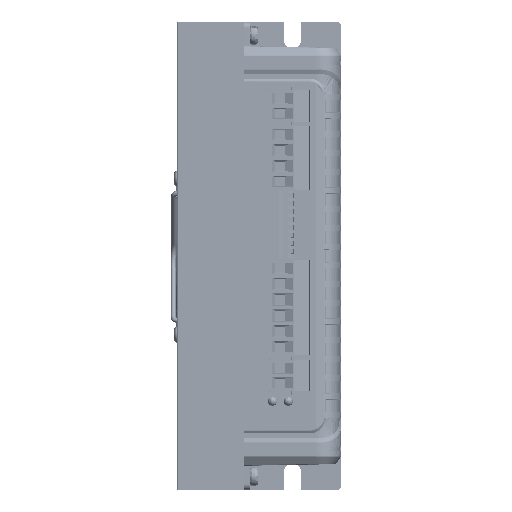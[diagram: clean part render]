
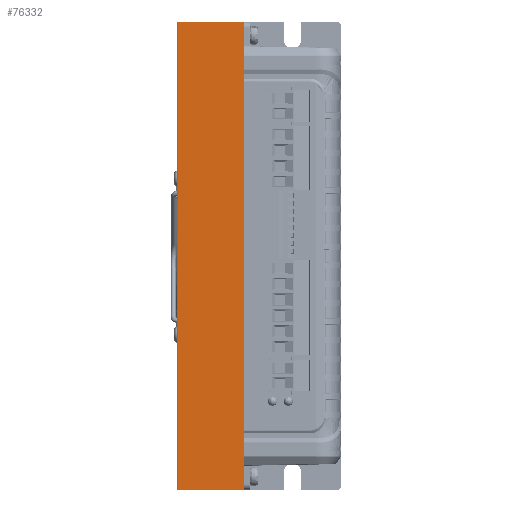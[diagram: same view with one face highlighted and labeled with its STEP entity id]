
A CAD part, front view. The second image highlights one B-rep face of the part: STEP entity #76332.
In plain terms, the highlighted planar face has unit normal (0, -1, 0).
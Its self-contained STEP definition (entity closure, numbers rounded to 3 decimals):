
#10241 = CARTESIAN_POINT ( 'NONE',  ( -4.7, -52.293, 150. ) ) ;
#20636 = CARTESIAN_POINT ( 'NONE',  ( -25.8, -52.293, 0. ) ) ;
#28886 = PLANE ( 'NONE',  #78495 ) ;
#48310 = CARTESIAN_POINT ( 'NONE',  ( -4.7, -52.293, 0. ) ) ;
#51841 = CARTESIAN_POINT ( 'NONE',  ( -25.8, -52.293, 0. ) ) ;
#64246 = VECTOR ( 'NONE', #119188, 1000. ) ;
#66654 = VECTOR ( 'NONE', #177272, 1000. ) ;
#76332 = ADVANCED_FACE ( 'NONE', ( #286572 ), #28886, .F. ) ;
#78495 = AXIS2_PLACEMENT_3D ( 'NONE', #162016, #299126, #241222 ) ;
#94642 = LINE ( 'NONE', #51841, #153856 ) ;
#117813 = ORIENTED_EDGE ( 'NONE', *, *, #130567, .T. ) ;
#119188 = DIRECTION ( 'NONE',  ( 0., 0., -1. ) ) ;
#130567 = EDGE_CURVE ( 'NONE', #210905, #340233, #239634, .T. ) ;
#140157 = CARTESIAN_POINT ( 'NONE',  ( -25.8, -52.293, 150. ) ) ;
#141201 = ORIENTED_EDGE ( 'NONE', *, *, #337586, .T. ) ;
#143908 = CARTESIAN_POINT ( 'NONE',  ( -4.7, -52.293, 150. ) ) ;
#146060 = DIRECTION ( 'NONE',  ( 1., 0., 0. ) ) ;
#150278 = EDGE_CURVE ( 'NONE', #264437, #253051, #173801, .T. ) ;
#153856 = VECTOR ( 'NONE', #213426, 1000. ) ;
#162016 = CARTESIAN_POINT ( 'NONE',  ( -25.8, -52.293, 150. ) ) ;
#173801 = LINE ( 'NONE', #143908, #64246 ) ;
#177272 = DIRECTION ( 'NONE',  ( 0., 0., -1. ) ) ;
#203892 = CARTESIAN_POINT ( 'NONE',  ( -25.8, -52.293, 150. ) ) ;
#210905 = VERTEX_POINT ( 'NONE', #140157 ) ;
#213426 = DIRECTION ( 'NONE',  ( 1., 0., 0. ) ) ;
#218718 = LINE ( 'NONE', #203892, #312056 ) ;
#239634 = LINE ( 'NONE', #268326, #66654 ) ;
#241222 = DIRECTION ( 'NONE',  ( 0., 0., 1. ) ) ;
#253051 = VERTEX_POINT ( 'NONE', #48310 ) ;
#264437 = VERTEX_POINT ( 'NONE', #10241 ) ;
#268326 = CARTESIAN_POINT ( 'NONE',  ( -25.8, -52.293, 150. ) ) ;
#279148 = ORIENTED_EDGE ( 'NONE', *, *, #306383, .F. ) ;
#286572 = FACE_OUTER_BOUND ( 'NONE', #301889, .T. ) ;
#299126 = DIRECTION ( 'NONE',  ( 0., 1., 0. ) ) ;
#301889 = EDGE_LOOP ( 'NONE', ( #141201, #339969, #279148, #117813 ) ) ;
#306383 = EDGE_CURVE ( 'NONE', #210905, #264437, #218718, .T. ) ;
#312056 = VECTOR ( 'NONE', #146060, 1000. ) ;
#337586 = EDGE_CURVE ( 'NONE', #340233, #253051, #94642, .T. ) ;
#339969 = ORIENTED_EDGE ( 'NONE', *, *, #150278, .F. ) ;
#340233 = VERTEX_POINT ( 'NONE', #20636 ) ;
